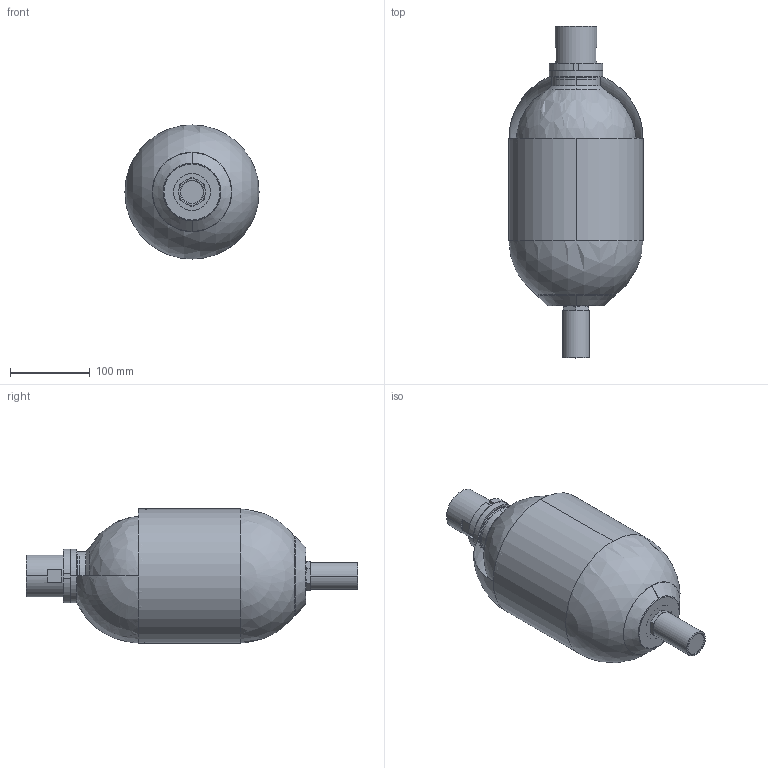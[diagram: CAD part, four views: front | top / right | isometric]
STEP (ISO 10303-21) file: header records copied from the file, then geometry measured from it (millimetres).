
FILE_DESCRIPTION((''),'2;1');
FILE_NAME('EHV_4_350_90.stp','2011-02-28T16:41:26',(''),(''),'Mechanical Desktop 2009','Mechanical Desktop 2009',', , ');
FILE_SCHEMA(('CONFIG_CONTROL_DESIGN'));
Length unit declared in the file: millimetre
Products named in the file (20): DESSIN7; AD108454-01125; CA108563-00190(1); CA108563-00190; BC108570-00220; BE100016-00200(1); BE100016-00200; BM108569-00200; CB108568-00200(1); CB108568-00200; EC100987-00200(1); EC100987-00200; EC102958-00200(1); EC102958-00200; BP102851-00200; BOUCHON DE PROTECTION; BOUCHON PLASTIQUE; PF108572-05200(1); PF108572-05200; GABARIT
Assembly tree (19 placements, depth 6):
  DESSIN7
    AD108454-01125
      CA108563-00190(1)
        CA108563-00190
      BC108570-00220
        BE100016-00200(1)
          BE100016-00200
        BM108569-00200
          CB108568-00200(1)
            CB108568-00200
        EC100987-00200(1)
          EC100987-00200
      EC102958-00200(1)
        EC102958-00200
      BP102851-00200
        BOUCHON DE PROTECTION
        BOUCHON PLASTIQUE
      PF108572-05200(1)
        PF108572-05200
    GABARIT
Bounding box: 168.3 x 416.4 x 168.3 mm (x, y, z)
Volume: 1305027.1 mm3; surface area: 412695.9 mm2
Topology: 8 solids, 8 shells, 199 faces, 488 edges, 302 vertices
Faces by surface type: cylinder 76, plane 56, cone 46, bspline 12, torus 6, sphere 3
Entity records: 6797 total; most frequent: CARTESIAN_POINT 1725, DIRECTION 1114, ORIENTED_EDGE 922, AXIS2_PLACEMENT_3D 470, EDGE_CURVE 461, VERTEX_POINT 295, CIRCLE 263, EDGE_LOOP 242
